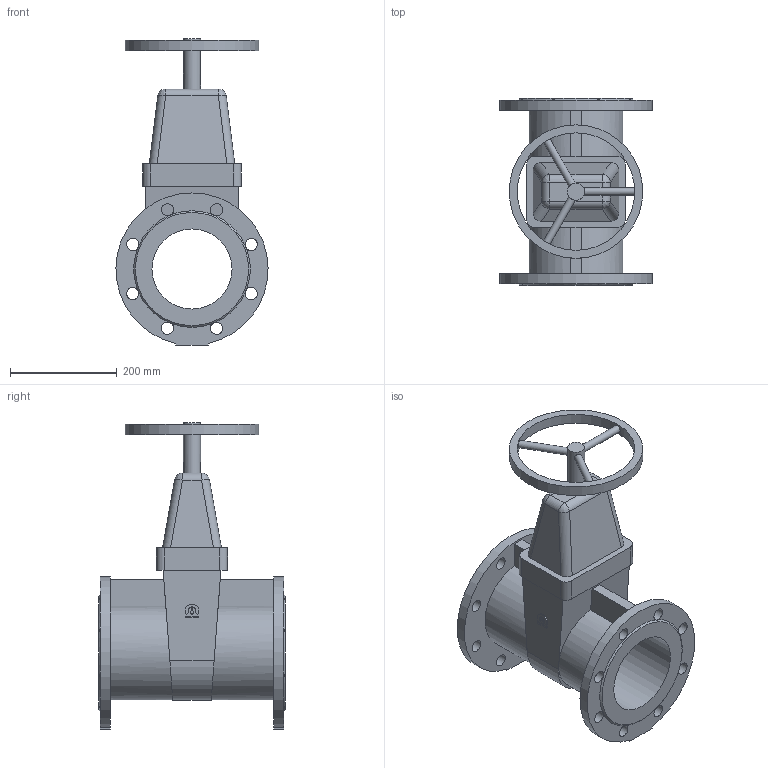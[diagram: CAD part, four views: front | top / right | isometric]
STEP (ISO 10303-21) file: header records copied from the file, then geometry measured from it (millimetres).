
FILE_DESCRIPTION(('STEP AP203'), '1');
FILE_NAME('Çàäâèæêà 47GV DN150 PN10_PN16_L350 ñ ìàõîâèêîì', '', ('UNSPECIFIED'), ('UNSPECIFIED'), 'ASCON STEP Converter 1.6', 'ASCON Math Kernel', '');
FILE_SCHEMA(('CONFIG_CONTROL_DESIGN'));
Length unit declared in the file: millimetre
Bounding box: 284.94 x 350 x 573.5 mm (x, y, z)
Volume: 8637711.8 mm3; surface area: 781678.7 mm2
Topology: 1 solids, 1 shells, 105 faces, 307 edges, 196 vertices
Faces by surface type: plane 51, cylinder 48, bspline 4, cone 2
Full cylindrical faces by diameter (mm): 14 x3, 23 x16, 32 x1, 150 x1, 220 x1, 250 x1
Entity records: 5956 total; most frequent: CARTESIAN_POINT 2336, DIRECTION 560, ORIENTED_EDGE 556, EDGE_CURVE 278, AXIS2_PLACEMENT_3D 218, VERTEX_POINT 196, EDGE_LOOP 166, FACE_BOUND 134
